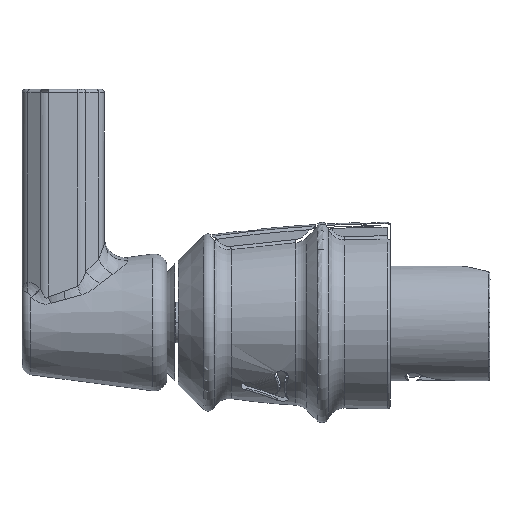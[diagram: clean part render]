
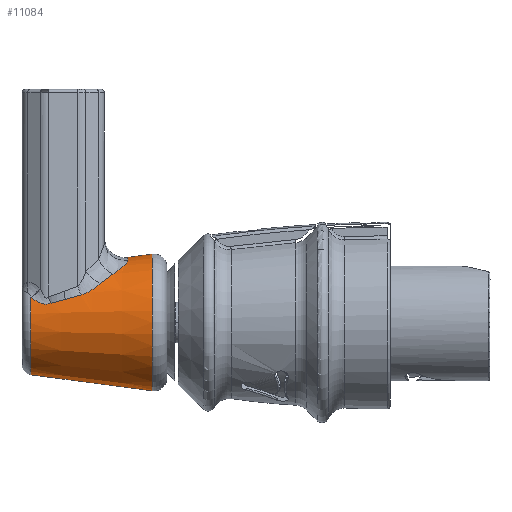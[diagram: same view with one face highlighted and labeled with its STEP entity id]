
A CAD part, left-side view. The second image highlights one B-rep face of the part: STEP entity #11084.
In plain terms, the highlighted conical face has half-angle 7.543 degrees and reference radius 8.793 mm.
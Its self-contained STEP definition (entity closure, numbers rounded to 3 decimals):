
#7362=CARTESIAN_POINT('',(-6.677,66.935,3.678));
#7363=CARTESIAN_POINT('',(-6.681,66.928,3.672));
#7364=CARTESIAN_POINT('',(-6.689,66.913,3.66));
#7365=CARTESIAN_POINT('',(-6.702,66.891,3.643));
#7366=CARTESIAN_POINT('',(-6.71,66.876,3.632));
#7367=CARTESIAN_POINT('',(-6.715,66.868,3.626));
#7369=CARTESIAN_POINT('',(-6.715,66.868,3.626));
#7370=CARTESIAN_POINT('',(-6.755,66.798,3.571));
#7371=CARTESIAN_POINT('',(-6.83,66.659,3.466));
#7372=CARTESIAN_POINT('',(-6.927,66.465,3.329));
#7373=CARTESIAN_POINT('',(-7.01,66.279,3.209));
#7374=CARTESIAN_POINT('',(-7.083,66.103,3.103));
#7375=CARTESIAN_POINT('',(-7.146,65.935,3.012));
#7376=CARTESIAN_POINT('',(-7.2,65.777,2.935));
#7377=CARTESIAN_POINT('',(-7.248,65.627,2.871));
#7378=CARTESIAN_POINT('',(-7.289,65.484,2.818));
#7379=CARTESIAN_POINT('',(-7.324,65.35,2.775));
#7380=CARTESIAN_POINT('',(-7.354,65.227,2.743));
#7381=CARTESIAN_POINT('',(-7.379,65.112,2.72));
#7382=CARTESIAN_POINT('',(-7.4,65.005,2.703));
#7383=CARTESIAN_POINT('',(-7.418,64.903,2.692));
#7384=CARTESIAN_POINT('',(-7.434,64.804,2.686));
#7385=CARTESIAN_POINT('',(-7.448,64.708,2.684));
#7386=CARTESIAN_POINT('',(-7.461,64.611,2.687));
#7387=CARTESIAN_POINT('',(-7.473,64.509,2.695));
#7388=CARTESIAN_POINT('',(-7.483,64.401,2.708));
#7389=CARTESIAN_POINT('',(-7.492,64.282,2.729));
#7390=CARTESIAN_POINT('',(-7.5,64.148,2.76));
#7391=CARTESIAN_POINT('',(-7.503,64.051,2.789));
#7392=CARTESIAN_POINT('',(-7.504,64.001,2.805));
#7394=CARTESIAN_POINT('',(-7.504,64.001,2.805));
#7395=CARTESIAN_POINT('',(-7.513,63.529,2.959));
#7396=CARTESIAN_POINT('',(-7.532,62.579,3.246));
#7397=CARTESIAN_POINT('',(-7.561,61.139,3.64));
#7398=CARTESIAN_POINT('',(-7.581,60.173,3.885));
#7399=CARTESIAN_POINT('',(-7.591,59.688,4.004));
#7401=CARTESIAN_POINT('',(-7.591,59.688,4.004));
#7402=CARTESIAN_POINT('',(-7.592,59.626,4.02));
#7403=CARTESIAN_POINT('',(-7.593,59.494,4.055));
#7404=CARTESIAN_POINT('',(-7.586,59.276,4.128));
#7405=CARTESIAN_POINT('',(-7.571,59.049,4.217));
#7406=CARTESIAN_POINT('',(-7.548,58.824,4.319));
#7407=CARTESIAN_POINT('',(-7.517,58.604,4.431));
#7408=CARTESIAN_POINT('',(-7.48,58.395,4.547));
#7409=CARTESIAN_POINT('',(-7.437,58.197,4.666));
#7410=CARTESIAN_POINT('',(-7.39,58.007,4.787));
#7411=CARTESIAN_POINT('',(-7.334,57.811,4.919));
#7412=CARTESIAN_POINT('',(-7.264,57.595,5.072));
#7413=CARTESIAN_POINT('',(-7.175,57.357,5.252));
#7414=CARTESIAN_POINT('',(-7.064,57.099,5.456));
#7415=CARTESIAN_POINT('',(-6.973,56.915,5.611));
#7416=CARTESIAN_POINT('',(-6.922,56.821,5.692));
#7418=CARTESIAN_POINT('',(-6.922,56.821,5.692));
#7419=CARTESIAN_POINT('',(-6.818,56.628,5.858));
#7420=CARTESIAN_POINT('',(-6.606,56.233,6.179));
#7421=CARTESIAN_POINT('',(-6.276,55.617,6.626));
#7422=CARTESIAN_POINT('',(-6.048,55.192,6.904));
#7423=CARTESIAN_POINT('',(-5.933,54.977,7.039));
#7425=CARTESIAN_POINT('',(-5.933,54.977,7.039));
#7426=CARTESIAN_POINT('',(-5.868,54.856,7.114));
#7427=CARTESIAN_POINT('',(-5.733,54.626,7.264));
#7428=CARTESIAN_POINT('',(-5.512,54.313,7.485));
#7429=CARTESIAN_POINT('',(-5.277,54.032,7.697));
#7430=CARTESIAN_POINT('',(-5.032,53.784,7.899));
#7431=CARTESIAN_POINT('',(-4.781,53.569,8.086));
#7432=CARTESIAN_POINT('',(-4.528,53.387,8.258));
#7433=CARTESIAN_POINT('',(-4.273,53.234,8.416));
#7434=CARTESIAN_POINT('',(-4.019,53.109,8.558));
#7435=CARTESIAN_POINT('',(-3.765,53.01,8.687));
#7436=CARTESIAN_POINT('',(-3.516,52.936,8.801));
#7437=CARTESIAN_POINT('',(-3.266,52.883,8.904));
#7438=CARTESIAN_POINT('',(-3.015,52.851,8.997));
#7439=CARTESIAN_POINT('',(-2.849,52.844,9.051));
#7440=CARTESIAN_POINT('',(-2.767,52.844,9.076));
#7442=CARTESIAN_POINT('',(0.,52.844,0.));
#7443=DIRECTION('',(0.,1.,0.));
#7444=DIRECTION('',(-0.292,0.,0.957));
#7445=AXIS2_PLACEMENT_3D('',#7442,#7443,#7444);
#7480=DIRECTION('',(0.,-0.991,0.131));
#7481=VECTOR('',#7480,3.616);
#7482=CARTESIAN_POINT('',(0.,52.844,9.488));
#7483=LINE('',#7482,#7481);
#7570=DIRECTION('',(0.,-0.991,-0.131));
#7571=VECTOR('',#7570,17.829);
#7572=CARTESIAN_POINT('',(0.,66.935,
-7.622));
#7573=LINE('',#7572,#7571);
#8715=CARTESIAN_POINT('',(0.,66.935,0.));
#8716=DIRECTION('',(0.,-1.,0.));
#8717=DIRECTION('',(-0.876,0.,0.482));
#8718=AXIS2_PLACEMENT_3D('',#8715,#8716,#8717);
#8896=CARTESIAN_POINT('',(0.,49.26,0.));
#8897=DIRECTION('',(0.,-1.,0.));
#8898=DIRECTION('',(0.,0.,1.));
#8899=AXIS2_PLACEMENT_3D('',#8896,#8897,#8898);
#10353=CARTESIAN_POINT('',(0.,66.935,
-7.622));
#10354=CARTESIAN_POINT('',(0.,49.26,-9.963));
#10355=VERTEX_POINT('',#10353);
#10356=VERTEX_POINT('',#10354);
#10357=CARTESIAN_POINT('',(0.,52.844,9.488));
#10358=CARTESIAN_POINT('',(0.,49.26,9.963));
#10359=VERTEX_POINT('',#10357);
#10360=VERTEX_POINT('',#10358);
#10740=CARTESIAN_POINT('',(-2.767,52.844,
9.076));
#10741=VERTEX_POINT('',#10740);
#10742=VERTEX_POINT('',#7425);
#10745=VERTEX_POINT('',#7418);
#10747=VERTEX_POINT('',#7401);
#10749=VERTEX_POINT('',#7394);
#10751=VERTEX_POINT('',#7369);
#10754=VERTEX_POINT('',#7362);
#11055=CARTESIAN_POINT('',(0.,58.098,0.));
#11056=DIRECTION('',(0.,-1.,0.));
#11057=DIRECTION('',(0.,0.,1.));
#11058=AXIS2_PLACEMENT_3D('',#11055,#11056,#11057);
#11059=CONICAL_SURFACE('',#11058,8.793,7.543);
#11061=ORIENTED_EDGE('',*,*,#11060,.T.);
#11063=ORIENTED_EDGE('',*,*,#11062,.T.);
#11065=ORIENTED_EDGE('',*,*,#11064,.F.);
#11067=ORIENTED_EDGE('',*,*,#11066,.F.);
#11069=ORIENTED_EDGE('',*,*,#11068,.T.);
#11071=ORIENTED_EDGE('',*,*,#11070,.T.);
#11073=ORIENTED_EDGE('',*,*,#11072,.T.);
#11075=ORIENTED_EDGE('',*,*,#11074,.T.);
#11077=ORIENTED_EDGE('',*,*,#11076,.T.);
#11079=ORIENTED_EDGE('',*,*,#11078,.T.);
#11081=ORIENTED_EDGE('',*,*,#11080,.T.);
#11082=EDGE_LOOP('',(#11061,#11063,#11065,#11067,#11069,#11071,#11073,#11075,
#11077,#11079,#11081));
#11083=FACE_OUTER_BOUND('',#11082,.F.);
#11084=ADVANCED_FACE('',(#11083),#11059,.T.);
#7368=B_SPLINE_CURVE_WITH_KNOTS('',3,(#7362,#7363,#7364,#7365,#7366,#7367),
.UNSPECIFIED.,.F.,.F.,(4,1,1,4),(0.,0.333,0.667,1.),
.UNSPECIFIED.);
#7393=B_SPLINE_CURVE_WITH_KNOTS('',3,(#7369,#7370,#7371,#7372,#7373,#7374,#7375,
#7376,#7377,#7378,#7379,#7380,#7381,#7382,#7383,#7384,#7385,#7386,#7387,#7388,
#7389,#7390,#7391,#7392),.UNSPECIFIED.,.F.,.F.,(4,1,1,1,1,1,1,1,1,1,1,1,1,1,1,1,
1,1,1,1,1,4),(0.,0.048,0.095,0.143,
0.19,0.238,0.286,0.333,
0.381,0.429,0.476,0.524,
0.571,0.619,0.667,0.714,
0.762,0.81,0.857,0.905,
0.952,1.),.UNSPECIFIED.);
#7400=B_SPLINE_CURVE_WITH_KNOTS('',3,(#7394,#7395,#7396,#7397,#7398,#7399),
.UNSPECIFIED.,.F.,.F.,(4,1,1,4),(0.,0.333,0.667,1.),
.UNSPECIFIED.);
#7417=B_SPLINE_CURVE_WITH_KNOTS('',3,(#7401,#7402,#7403,#7404,#7405,#7406,#7407,
#7408,#7409,#7410,#7411,#7412,#7413,#7414,#7415,#7416),.UNSPECIFIED.,.F.,.F.,(4,
1,1,1,1,1,1,1,1,1,1,1,1,4),(0.,0.077,0.154,
0.231,0.308,0.385,0.462,
0.538,0.615,0.692,0.769,
0.846,0.923,1.),.UNSPECIFIED.);
#7424=B_SPLINE_CURVE_WITH_KNOTS('',3,(#7418,#7419,#7420,#7421,#7422,#7423),
.UNSPECIFIED.,.F.,.F.,(4,1,1,4),(0.,0.333,0.667,1.),
.UNSPECIFIED.);
#7441=B_SPLINE_CURVE_WITH_KNOTS('',3,(#7425,#7426,#7427,#7428,#7429,#7430,#7431,
#7432,#7433,#7434,#7435,#7436,#7437,#7438,#7439,#7440),.UNSPECIFIED.,.F.,.F.,(4,
1,1,1,1,1,1,1,1,1,1,1,1,4),(0.,0.077,0.154,
0.231,0.308,0.385,0.462,
0.538,0.615,0.692,0.769,
0.846,0.923,1.),.UNSPECIFIED.);
#7446=CIRCLE('',#7445,9.488);
#8719=CIRCLE('',#8718,7.622);
#8900=CIRCLE('',#8899,9.963);
#11060=EDGE_CURVE('',#10359,#10360,#7483,.T.);
#11062=EDGE_CURVE('',#10360,#10356,#8900,.T.);
#11064=EDGE_CURVE('',#10355,#10356,#7573,.T.);
#11066=EDGE_CURVE('',#10754,#10355,#8719,.T.);
#11068=EDGE_CURVE('',#10754,#10751,#7368,.T.);
#11070=EDGE_CURVE('',#10751,#10749,#7393,.T.);
#11072=EDGE_CURVE('',#10749,#10747,#7400,.T.);
#11074=EDGE_CURVE('',#10747,#10745,#7417,.T.);
#11076=EDGE_CURVE('',#10745,#10742,#7424,.T.);
#11078=EDGE_CURVE('',#10742,#10741,#7441,.T.);
#11080=EDGE_CURVE('',#10741,#10359,#7446,.T.);
